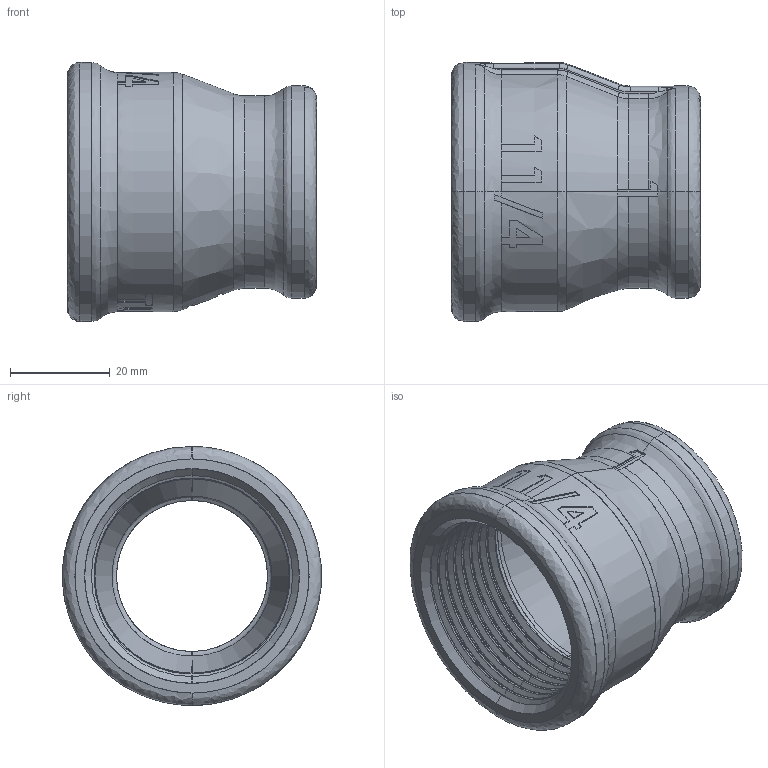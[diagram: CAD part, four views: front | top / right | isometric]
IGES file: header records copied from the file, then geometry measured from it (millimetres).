
Start section: SolidWorks IGES file using analytic representation for surfaces
Global section: file name: C:\Users\Joel Rosa\Desktop\Tubulação\12-32-OK\12-32-037.IGS; native system: SolidWorks 2011; preprocessor: SolidWorks 2011; author: Joel Rosa; date: 121208.225109; units: millimetre
Bounding box: 50 x 52 x 52 mm (x, y, z)
Surface area: 17262.9 mm2 (no closed solid volume)
Topology: 0 solids, 0 shells, 365 faces, 2785 edges, 2783 vertices
Faces by surface type: bspline 254, revolution 111
